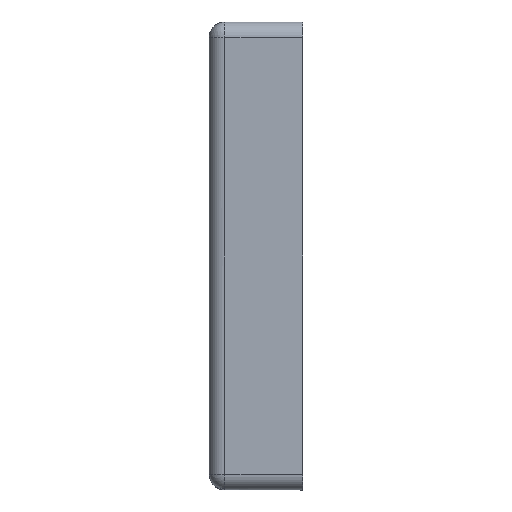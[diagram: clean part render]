
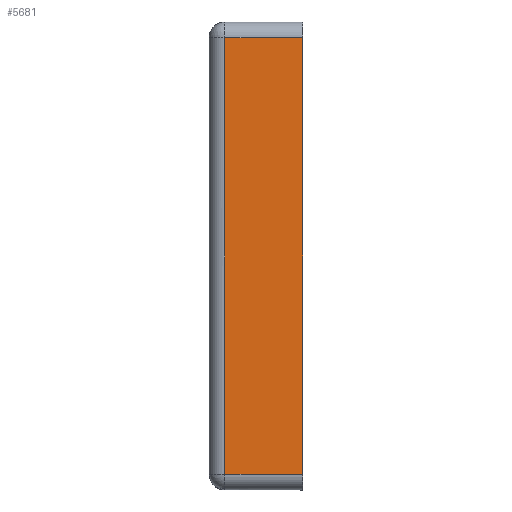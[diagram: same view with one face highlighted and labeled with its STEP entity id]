
A CAD part, left-side view. The second image highlights one B-rep face of the part: STEP entity #5681.
In plain terms, the highlighted planar face has unit normal (-1, 0, 0).
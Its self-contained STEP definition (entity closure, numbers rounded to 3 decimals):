
#18 = VECTOR ( 'NONE', #1373, 1000. ) ;
#49 = EDGE_CURVE ( 'NONE', #4523, #237, #4896, .T. ) ;
#76 = ORIENTED_EDGE ( 'NONE', *, *, #3161, .F. ) ;
#198 = LINE ( 'NONE', #3070, #18 ) ;
#237 = VERTEX_POINT ( 'NONE', #2364 ) ;
#424 = EDGE_CURVE ( 'NONE', #1947, #4523, #870, .T. ) ;
#659 = CARTESIAN_POINT ( 'NONE',  ( -30., 4., 34. ) ) ;
#870 = LINE ( 'NONE', #1481, #3510 ) ;
#1270 = DIRECTION ( 'NONE',  ( 0., -1., 0. ) ) ;
#1355 = CARTESIAN_POINT ( 'NONE',  ( -30., -6., 34. ) ) ;
#1373 = DIRECTION ( 'NONE',  ( 0., 1., 0. ) ) ;
#1394 = AXIS2_PLACEMENT_3D ( 'NONE', #3582, #3333, #3320 ) ;
#1481 = CARTESIAN_POINT ( 'NONE',  ( -30., 6., 34. ) ) ;
#1947 = VERTEX_POINT ( 'NONE', #659 ) ;
#1990 = ORIENTED_EDGE ( 'NONE', *, *, #424, .F. ) ;
#2364 = CARTESIAN_POINT ( 'NONE',  ( -30., -6., -22. ) ) ;
#2631 = VERTEX_POINT ( 'NONE', #4081 ) ;
#2715 = DIRECTION ( 'NONE',  ( 0., 0., 1. ) ) ;
#2995 = CARTESIAN_POINT ( 'NONE',  ( -30., 4., -24. ) ) ;
#3009 = ORIENTED_EDGE ( 'NONE', *, *, #4419, .F. ) ;
#3070 = CARTESIAN_POINT ( 'NONE',  ( -30., 6., -22. ) ) ;
#3161 = EDGE_CURVE ( 'NONE', #2631, #1947, #4693, .T. ) ;
#3308 = FACE_OUTER_BOUND ( 'NONE', #3932, .T. ) ;
#3320 = DIRECTION ( 'NONE',  ( 0., 0., -1. ) ) ;
#3333 = DIRECTION ( 'NONE',  ( 1., 0., 0. ) ) ;
#3356 = PLANE ( 'NONE',  #1394 ) ;
#3510 = VECTOR ( 'NONE', #1270, 1000. ) ;
#3582 = CARTESIAN_POINT ( 'NONE',  ( -30., 6., -24. ) ) ;
#3696 = DIRECTION ( 'NONE',  ( 0., 0., -1. ) ) ;
#3767 = CARTESIAN_POINT ( 'NONE',  ( -30., -6., -24. ) ) ;
#3932 = EDGE_LOOP ( 'NONE', ( #3009, #6590, #1990, #76 ) ) ;
#4038 = VECTOR ( 'NONE', #2715, 1000. ) ;
#4081 = CARTESIAN_POINT ( 'NONE',  ( -30., 4., -22. ) ) ;
#4419 = EDGE_CURVE ( 'NONE', #237, #2631, #198, .T. ) ;
#4523 = VERTEX_POINT ( 'NONE', #1355 ) ;
#4693 = LINE ( 'NONE', #2995, #4038 ) ;
#4896 = LINE ( 'NONE', #3767, #5524 ) ;
#5524 = VECTOR ( 'NONE', #3696, 1000. ) ;
#5681 = ADVANCED_FACE ( 'NONE', ( #3308 ), #3356, .F. ) ;
#6590 = ORIENTED_EDGE ( 'NONE', *, *, #49, .F. ) ;
